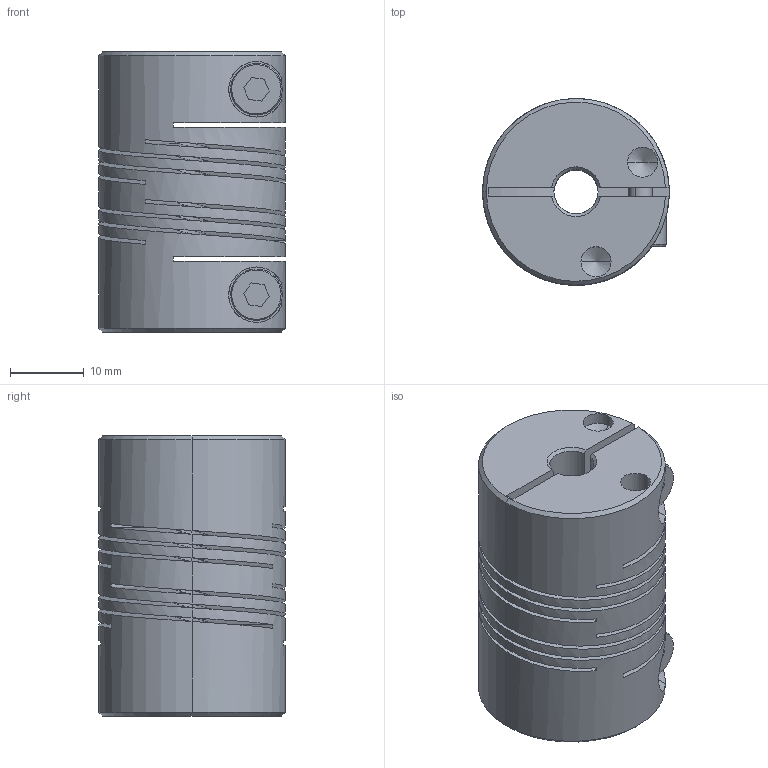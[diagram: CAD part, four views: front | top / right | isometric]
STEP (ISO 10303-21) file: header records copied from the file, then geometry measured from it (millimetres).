
FILE_DESCRIPTION((''),'2;1');
FILE_NAME('FCMR25-6-6-A','2016-09-08T',('SYSTEM'),(''),'PRO/ENGINEER BY PARAMETRIC TECHNOLOGY CORPORATION, 2015110','PRO/ENGINEER BY PARAMETRIC TECHNOLOGY CORPORATION, 2015110','');
FILE_SCHEMA(('AUTOMOTIVE_DESIGN { 1 0 10303 214 1 1 1 1 }'));
Length unit declared in the file: inch
Products named in the file (1): FCMR25-6-6-A
Bounding box: 25.4 x 25.4 x 38.1 mm (x, y, z)
Volume: 15292.2 mm3; surface area: 12575.3 mm2
Topology: 1 solids, 1 shells, 155 faces, 438 edges, 283 vertices
Faces by surface type: plane 60, cylinder 56, cone 27, bspline 12
Entity records: 8769 total; most frequent: CARTESIAN_POINT 3436, ORIENTED_EDGE 876, DIRECTION 764, PRESENTATION_STYLE_ASSIGNMENT 439, STYLED_ITEM 439, CURVE_STYLE 438, EDGE_CURVE 438, VERTEX_POINT 283
